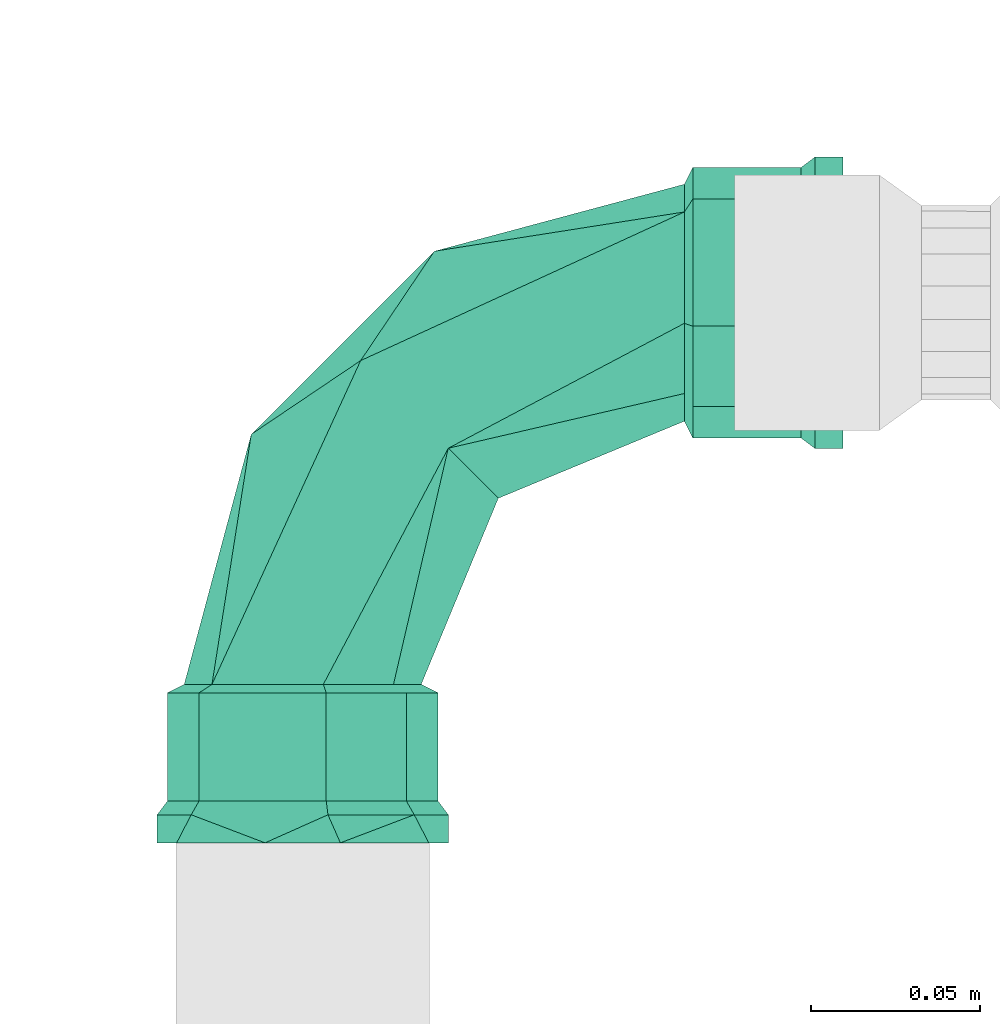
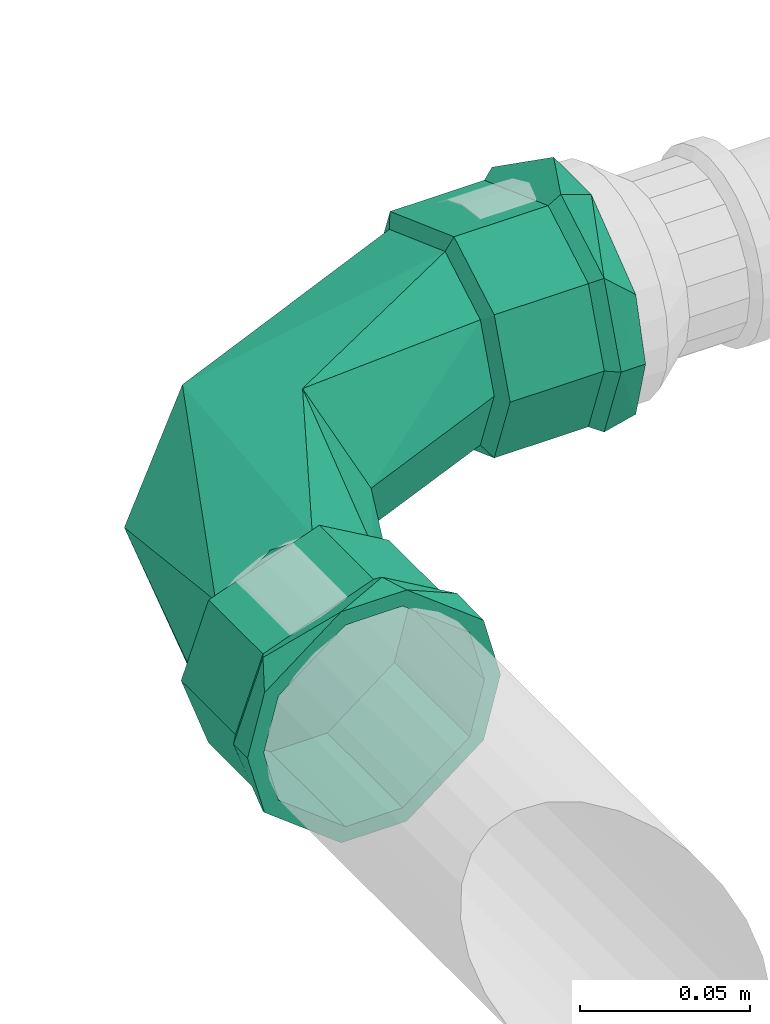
# One storey, part 129 of 166: 1 flow fitting.
"""IFC2X3 building model written with IfcOpenShell, lengths in metres."""

from ifc_helpers import new_model, entity, si_unit, converted_unit, direction, frame, origin, place, context, subcontext, project, spatial, faceted_brep, source, transform, mapped, material, type_object, type_shapes, element, save


model = new_model("IFC2X3")

# Units and contexts
model_context = context("Model", 3, precision=1e-05, world=origin(), true_north=direction((6.123233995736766e-17, 1.0)))
body_context = subcontext(model_context, "Body", "Model", "MODEL_VIEW")
ifc_project = project(units=[si_unit("LENGTHUNIT", "METRE"), converted_unit("PLANEANGLEUNIT", "DEGREE", entity("IfcPlaneAngleMeasure", 0.017453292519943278), si_unit("PLANEANGLEUNIT", "RADIAN"), dimensions=[0, 0, 0, 0, 0, 0, 0]), si_unit("AREAUNIT", "SQUARE_METRE")], contexts=[model_context])

# Site, building, storey
site_placement = place(None, origin())
site = spatial("IfcSite", under=ifc_project, at=site_placement, Name="Default", CompositionType="ELEMENT")
building_placement = place(site_placement, origin())
building = spatial("IfcBuilding", under=site, at=building_placement, Name="CASA DE ACOLHIDA PARA IDOSOS", CompositionType="ELEMENT")
storey_placement = place(building_placement, frame((0.0, 0.0, -1.7499999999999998)))
storey = spatial("IfcBuildingStorey", under=building, at=storey_placement, Name="IMPLANTAÇÃO DRENAGEM", CompositionType="ELEMENT", Elevation=-1.7499999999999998)

# Flow fitting
ifc_material = material(Name="PVC Marrom")
pipe_fitting_type = type_object("IfcPipeFittingType", Name="AF_Soldavel_Curva 45_90:Standard", PredefinedType="NOTDEFINED", material=ifc_material)
shared_shape = source(origin(), body_context, "Body", "Brep", [
    faceted_brep([(-0.1595599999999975, -0.01112921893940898, -0.041534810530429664), (-0.1595599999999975, -0.009705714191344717, -0.036222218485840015), (-0.1595599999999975, 0.00970571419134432, -0.03622221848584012), (-0.1595599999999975, -0.03723909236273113, -0.02149999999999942), (-0.1595599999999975, 0.011129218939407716, -0.041534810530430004), (-0.1595599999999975, -0.03247595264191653, -0.01874999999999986), (-0.1595599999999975, -0.037500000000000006, 0.0), (-0.1595599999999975, -0.043000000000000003, 0.0), (-0.1595599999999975, -0.032475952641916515, 0.018749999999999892), (-0.1595599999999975, -0.03723909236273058, 0.021499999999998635), (-0.1595599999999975, -0.009705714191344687, 0.03622221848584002), (-0.1595599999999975, -0.011129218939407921, 0.04153481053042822), (-0.1595599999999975, 0.00970571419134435, 0.03622221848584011), (-0.1595599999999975, 0.011129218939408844, 0.041534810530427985), (-0.1595599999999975, 0.03247595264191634, 0.018750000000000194), (-0.1595599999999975, 0.03723909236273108, 0.021499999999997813), (-0.1595599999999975, 0.043000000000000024, 0.0), (-0.1595599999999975, 0.037500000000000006, 0.0), (-0.1595599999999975, 0.03723909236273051, -0.021500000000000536), (-0.1595599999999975, 0.03247595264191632, -0.01875000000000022), (-0.1512599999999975, 0.043000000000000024, 0.0), (-0.1512599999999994, 0.03293946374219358, 0.027640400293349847), (-0.15126000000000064, 0.007465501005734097, 0.04234697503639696), (-0.1512599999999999, -0.032941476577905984, 0.027638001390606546), (-0.1512599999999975, -0.043000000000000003, 0.0), (-0.1512599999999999, -0.012737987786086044, 0.03499248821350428), (-0.15125999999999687, -0.03294147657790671, -0.027638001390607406), (-0.15125999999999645, -0.007468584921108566, -0.04234643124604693), (-0.1512599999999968, 0.03293946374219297, -0.027640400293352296), (-0.15125999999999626, 0.012735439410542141, -0.03499341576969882), (-0.14726000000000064, 0.006943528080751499, 0.03939273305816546), (-0.14725999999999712, -0.04, 0.0), (-0.14725999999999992, -0.0306445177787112, 0.02570823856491), (-0.14726000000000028, -0.01185049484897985, 0.03255048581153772), (-0.14725999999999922, 0.03064099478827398, 0.025712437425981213), (-0.14725999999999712, 0.04000000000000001, 0.0), (-0.14725999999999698, 0.030640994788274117, -0.025712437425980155), (-0.14725999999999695, 0.011846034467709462, -0.03255210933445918), (-0.14725999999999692, -0.030644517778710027, -0.02570823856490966), (-0.1472599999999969, -0.006948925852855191, -0.039391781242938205), (-0.11525999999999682, 0.04000000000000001, 0.0), (-0.1152599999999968, 0.03064034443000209, 0.025713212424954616), (-0.11525999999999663, 0.006941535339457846, 0.039393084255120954), (-0.1152599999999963, -0.030646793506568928, 0.025705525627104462), (-0.11525999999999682, -0.039999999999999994, 0.0), (-0.11525999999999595, -0.03064679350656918, -0.025705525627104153), (-0.11525999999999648, -0.006951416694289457, -0.03939134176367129), (-0.11525999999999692, 0.030640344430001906, -0.02571321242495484), (-0.11275999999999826, 0.02681594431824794, -0.022492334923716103), (-0.11275999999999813, -0.00607384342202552, -0.034468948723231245), (-0.1127599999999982, 0.03500000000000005, 0.0), (-0.1127599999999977, -0.026810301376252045, -0.02249906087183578), (-0.11275999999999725, -0.03500000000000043, 0.0), (-0.11276000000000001, -0.026810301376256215, 0.022499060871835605), (-0.11275999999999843, 0.0060824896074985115, 0.034467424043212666), (-0.11275999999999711, 0.026815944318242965, 0.022492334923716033), (-0.038879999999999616, -0.015203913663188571, 0.0), (-0.017106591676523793, 0.017106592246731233, 0.026797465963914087), (-0.006082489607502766, 0.11275999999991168, 0.0344674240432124), (-0.042993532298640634, 0.04299353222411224, 0.03203626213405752), (-0.05777537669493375, 0.05777537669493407, 0.0), (-0.0268159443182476, 0.1127599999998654, 0.02249233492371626), (0.015203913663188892, 0.03887999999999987, 0.0), (0.035000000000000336, 0.11275999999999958, 0.0), (0.026810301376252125, 0.11275999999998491, 0.022499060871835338), (-0.034999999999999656, 0.1127599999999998, 0.0), (-0.037770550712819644, 0.03777054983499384, -0.03435099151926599), (-0.05270496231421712, 0.052704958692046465, -0.021225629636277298), (-0.0268159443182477, 0.11275999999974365, -0.022492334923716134), (-0.01710659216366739, 0.01710659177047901, -0.02679746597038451), (0.0060738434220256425, 0.11275999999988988, -0.03446894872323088), (0.02681030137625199, 0.11275999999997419, -0.022499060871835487), (0.03064034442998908, 0.115259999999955, -0.025713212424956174), (0.03999999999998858, 0.11525999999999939, 0.0), (0.006941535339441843, 0.11525999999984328, -0.03939308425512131), (-0.04000000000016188, 0.11525999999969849, 0.0), (-0.030646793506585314, 0.11525999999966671, -0.02570552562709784), (-0.03064679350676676, 0.1152600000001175, 0.02570552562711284), (-0.006951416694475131, 0.11526000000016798, 0.039391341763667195), (0.030640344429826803, 0.1152600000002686, 0.025713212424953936), (0.03999999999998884, 0.14725999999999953, 0.0), (0.030640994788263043, 0.14726000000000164, 0.02571243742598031), (0.011846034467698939, 0.14726000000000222, 0.03255210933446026), (-0.006948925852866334, 0.14726000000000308, 0.039391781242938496), (-0.03064451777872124, 0.1472600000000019, 0.02570823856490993), (-0.04000000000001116, 0.14725999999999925, 0.0), (-0.030644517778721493, 0.14726000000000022, -0.025708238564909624), (-0.011850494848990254, 0.14726000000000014, -0.03255048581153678), (0.006943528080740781, 0.14725999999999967, -0.03939273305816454), (0.030640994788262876, 0.14725999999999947, -0.025712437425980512), (-0.03293946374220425, 0.15126000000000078, 0.02764040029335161), (-0.043000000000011, 0.1512599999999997, 0.0), (-0.007465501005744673, 0.15126000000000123, 0.042346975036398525), (0.032941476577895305, 0.15126000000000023, 0.027638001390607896), (0.012737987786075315, 0.15126000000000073, 0.03499248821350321), (0.04299999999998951, 0.1512599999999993, 0.0), (0.03294147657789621, 0.15126000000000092, -0.027638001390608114), (0.0074685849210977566, 0.1512600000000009, -0.042346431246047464), (-0.03293946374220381, 0.15126000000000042, -0.0276404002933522), (-0.012735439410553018, 0.15126000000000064, -0.03499341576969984), (-0.011129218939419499, 0.1595599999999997, -0.04153481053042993), (-0.009705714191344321, 0.1595599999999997, -0.03622221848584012), (0.009705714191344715, 0.1595599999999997, -0.036222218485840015), (-0.03723909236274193, 0.1595599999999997, -0.02149999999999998), (0.011129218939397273, 0.1595599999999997, -0.04153481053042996), (-0.03247595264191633, 0.1595599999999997, -0.01875000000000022), (-0.037500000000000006, 0.1595599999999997, 0.0), (-0.04300000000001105, 0.1595599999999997, 0.0), (-0.03247595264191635, 0.1595599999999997, 0.018750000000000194), (-0.03723909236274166, 0.1595599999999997, 0.02150000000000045), (-0.009705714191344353, 0.1595599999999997, 0.03622221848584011), (-0.011129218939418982, 0.1595599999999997, 0.041534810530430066), (0.009705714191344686, 0.1595599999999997, 0.03622221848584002), (0.01112921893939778, 0.1595599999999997, 0.04153481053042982), (0.03247595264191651, 0.1595599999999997, 0.018749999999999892), (0.03723909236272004, 0.1595599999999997, 0.02149999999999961), (0.04299999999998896, 0.1595599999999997, 0.0), (0.0375, 0.1595599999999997, 0.0), (0.03723909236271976, 0.1595599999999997, -0.0215000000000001), (0.03247595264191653, 0.1595599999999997, -0.01874999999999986), (-0.11525999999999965, 0.009705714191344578, -0.036222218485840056), (-0.11525999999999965, -0.009705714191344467, -0.036222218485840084), (-0.11525999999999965, -0.032475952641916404, -0.018750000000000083), (-0.11525999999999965, -0.037500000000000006, 0.0), (-0.11525999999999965, -0.03247595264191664, 0.018749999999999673), (-0.11525999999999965, -0.009705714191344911, 0.03622221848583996), (-0.11525999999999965, 0.009705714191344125, 0.036222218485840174), (-0.11525999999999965, 0.032475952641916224, 0.01875000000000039), (-0.11525999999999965, 0.037500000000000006, 0.0), (-0.11525999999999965, 0.03247595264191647, -0.018749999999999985), (0.009705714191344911, 0.11526000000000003, 0.03622221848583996), (-0.009705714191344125, 0.11526000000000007, 0.036222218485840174), (-0.009705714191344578, 0.11526000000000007, -0.036222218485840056), (0.009705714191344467, 0.11526000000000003, -0.036222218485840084), (-0.03247595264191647, 0.1152600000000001, -0.018749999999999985), (-0.037500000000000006, 0.11526000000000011, 0.0), (-0.032475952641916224, 0.1152600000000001, 0.01875000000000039), (0.03247595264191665, 0.11526, 0.01874999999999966), (0.037500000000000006, 0.11525999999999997, 0.0), (0.032475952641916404, 0.11526, -0.018750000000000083)], [[[0, 1, 2]], [[1, 0, 3]], [[2, 4, 0]], [[3, 5, 1]], [[3, 6, 5]], [[6, 3, 7]], [[8, 6, 7]], [[8, 7, 9]], [[9, 10, 8]], [[9, 11, 10]], [[10, 11, 12]], [[13, 12, 11]], [[13, 14, 12]], [[14, 13, 15]], [[16, 14, 15]], [[17, 14, 16]], [[18, 17, 16]], [[18, 19, 17]], [[19, 18, 4]], [[4, 2, 19]], [[16, 15, 20]], [[15, 21, 20]], [[21, 15, 13]], [[21, 13, 22]], [[23, 11, 9]], [[24, 9, 7]], [[11, 23, 25, 22]], [[23, 9, 24]], [[11, 22, 13]], [[7, 3, 24]], [[3, 26, 24]], [[26, 3, 0]], [[26, 0, 27]], [[28, 4, 18]], [[20, 18, 16]], [[4, 28, 29, 27]], [[28, 18, 20]], [[4, 27, 0]], [[25, 30, 22]], [[31, 32, 24]], [[24, 32, 23]], [[23, 33, 25]], [[34, 35, 21]], [[23, 32, 33]], [[21, 22, 34]], [[20, 21, 35]], [[30, 25, 33]], [[34, 22, 30]], [[35, 36, 28]], [[28, 20, 35]], [[36, 29, 28]], [[36, 37, 29]], [[37, 27, 29]], [[38, 31, 24]], [[38, 26, 39]], [[26, 38, 24]], [[27, 37, 39]], [[39, 26, 27]], [[35, 34, 40]], [[34, 41, 40]], [[41, 34, 30]], [[41, 30, 42]], [[32, 31, 43]], [[32, 43, 42]], [[43, 31, 44]], [[42, 30, 33, 32]], [[31, 38, 45]], [[31, 45, 44]], [[45, 38, 46]], [[38, 39, 46]], [[47, 39, 37, 36]], [[36, 40, 47]], [[40, 36, 35]], [[39, 47, 46]], [[48, 49, 47]], [[50, 48, 40]], [[40, 48, 47]], [[49, 46, 47]], [[51, 52, 45]], [[45, 46, 51]], [[44, 45, 52]], [[51, 46, 49]], [[52, 53, 43]], [[43, 44, 52]], [[42, 43, 53]], [[53, 54, 42]], [[55, 50, 40]], [[55, 41, 54]], [[41, 55, 40]], [[54, 41, 42]], [[52, 56, 53]], [[53, 57, 54]], [[57, 58, 59]], [[59, 55, 54]], [[50, 55, 60]], [[58, 61, 59]], [[57, 56, 62]], [[57, 59, 54]], [[62, 63, 64]], [[57, 53, 56]], [[64, 58, 57]], [[65, 60, 61]], [[60, 55, 59]], [[60, 59, 61]], [[62, 64, 57]], [[66, 67, 68]], [[69, 66, 70]], [[62, 69, 71]], [[52, 51, 56]], [[56, 51, 69]], [[69, 49, 66]], [[50, 60, 67]], [[65, 68, 67]], [[66, 48, 67]], [[49, 48, 66]], [[70, 66, 68]], [[62, 56, 69]], [[70, 71, 69]], [[71, 63, 62]], [[51, 49, 69]], [[60, 65, 67]], [[50, 67, 48]], [[63, 71, 72, 73]], [[74, 72, 71, 70]], [[68, 65, 75, 76]], [[68, 76, 74, 70]], [[65, 61, 77, 75]], [[78, 77, 61, 58]], [[64, 63, 73, 79]], [[64, 79, 78, 58]], [[80, 81, 73]], [[81, 79, 73]], [[79, 81, 82, 83]], [[79, 83, 78]], [[84, 85, 77]], [[84, 77, 78]], [[77, 85, 75]], [[84, 78, 83]], [[85, 86, 76]], [[85, 76, 75]], [[76, 86, 74]], [[74, 86, 87, 88]], [[88, 89, 72]], [[89, 73, 72]], [[73, 89, 80]], [[88, 72, 74]], [[84, 83, 90]], [[85, 84, 91]], [[91, 84, 90]], [[83, 92, 90]], [[81, 80, 93]], [[81, 93, 94]], [[82, 92, 83]], [[95, 93, 80]], [[92, 82, 94]], [[82, 81, 94]], [[80, 89, 96]], [[96, 95, 80]], [[97, 96, 89]], [[98, 99, 87]], [[89, 88, 97]], [[86, 85, 91]], [[98, 87, 86]], [[98, 86, 91]], [[88, 99, 97]], [[99, 88, 87]], [[100, 101, 102]], [[101, 100, 103]], [[102, 104, 100]], [[103, 105, 101]], [[103, 106, 105]], [[106, 103, 107]], [[108, 106, 107]], [[108, 107, 109]], [[109, 110, 108]], [[109, 111, 110]], [[110, 111, 112]], [[113, 112, 111]], [[113, 114, 112]], [[114, 113, 115]], [[116, 114, 115]], [[117, 114, 116]], [[118, 117, 116]], [[118, 119, 117]], [[119, 118, 104]], [[104, 102, 119]], [[116, 115, 95]], [[115, 93, 95]], [[93, 115, 113]], [[113, 92, 94, 93]], [[90, 111, 109]], [[91, 109, 107]], [[111, 90, 92]], [[90, 109, 91]], [[111, 92, 113]], [[107, 103, 91]], [[103, 98, 91]], [[98, 103, 100]], [[100, 97, 99, 98]], [[96, 104, 118]], [[95, 118, 116]], [[104, 96, 97]], [[96, 118, 95]], [[104, 97, 100]], [[120, 121, 122, 123, 124, 125, 126, 127, 128, 129]], [[124, 123, 6, 8]], [[125, 124, 8, 10]], [[10, 12, 126, 125]], [[130, 131, 110, 112]], [[127, 126, 12, 14]], [[128, 127, 14, 17]], [[129, 128, 17, 19]], [[120, 129, 19, 2]], [[2, 1, 121, 120]], [[132, 133, 102, 101]], [[122, 121, 1, 5]], [[123, 122, 5, 6]], [[132, 134, 135, 136, 131, 130, 137, 138, 139, 133]], [[114, 117, 138, 137]], [[112, 114, 137, 130]], [[108, 110, 131, 136]], [[106, 108, 136, 135]], [[105, 106, 135, 134]], [[101, 105, 134, 132]], [[119, 102, 133, 139]], [[117, 119, 139, 138]]]),
])
type_shapes(pipe_fitting_type, [shared_shape])
flow_fitting_placement = place(storey_placement, frame((-52.13705372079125, 49.254942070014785, -0.2), z_axis=(0.0, 0.0, 1.0), x_axis=(-1.0, 0.0, 0.0)))
element("IfcFlowFitting", 1, at=flow_fitting_placement, inside=storey, type_object=pipe_fitting_type, material=ifc_material, Name="AF_Soldavel_Curva 45_90:Standard", ObjectType="AF_Soldavel_Curva 45_90:Standard", context=body_context, shape_type="MappedRepresentation", body=[
    mapped(shared_shape, transform((0.0, 0.0, 0.0), scale=1.0)),
])

save(model, "model.ifc")
